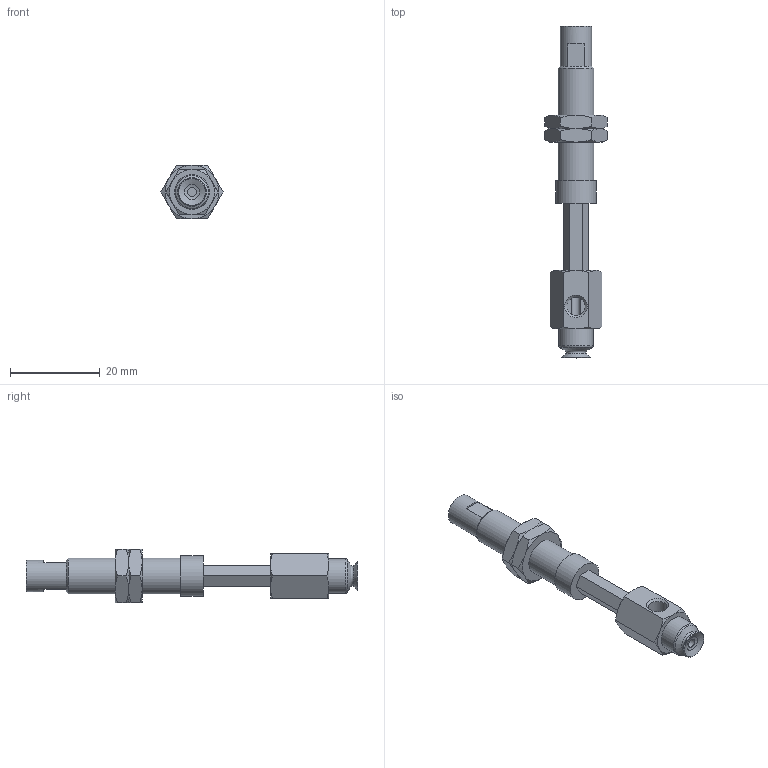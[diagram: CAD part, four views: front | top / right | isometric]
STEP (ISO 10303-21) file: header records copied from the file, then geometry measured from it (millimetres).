
FILE_DESCRIPTION(('STEP AP203'),'1');
FILE_NAME('.stp','2025-04-10T02:58:03',(' '),(' '),'Spatial InterOp 3D',' ',' ');
FILE_SCHEMA(('CONFIG_CONTROL_DESIGN'));
Length unit declared in the file: millimetre
Products named in the file (6): BNABPFYH-6A-15-※; CONNECTOR-H-6A-15; Nut-6A-15-h; NAPFTH-6A-15-FBODY; NAPFTH-6A-15-MBODY; BPFG-6A-※
Assembly tree (6 placements, depth 2):
  BNABPFYH-6A-15-※
    CONNECTOR-H-6A-15
    Nut-6A-15-h  x2
    NAPFTH-6A-15-FBODY
    NAPFTH-6A-15-MBODY
    BPFG-6A-※
Bounding box: 13.86 x 74 x 12 mm (x, y, z)
Volume: 3801.6 mm3; surface area: 4684.3 mm2
Topology: 6 solids, 6 shells, 138 faces, 300 edges, 182 vertices
Faces by surface type: plane 62, cone 51, cylinder 15, torus 9, bspline 1
Full cylindrical faces by diameter (mm): 2 x2, 4 x2, 4.134 x2, 5 x1, 6 x2, 7 x1, 7.188 x2, 7.7 x1, 8 x1, 9 x1
Entity records: 3447 total; most frequent: CARTESIAN_POINT 851, DIRECTION 474, ORIENTED_EDGE 416, EDGE_CURVE 208, AXIS2_PLACEMENT_3D 199, EDGE_LOOP 168, VERTEX_POINT 146, FACE_OUTER_BOUND 139
